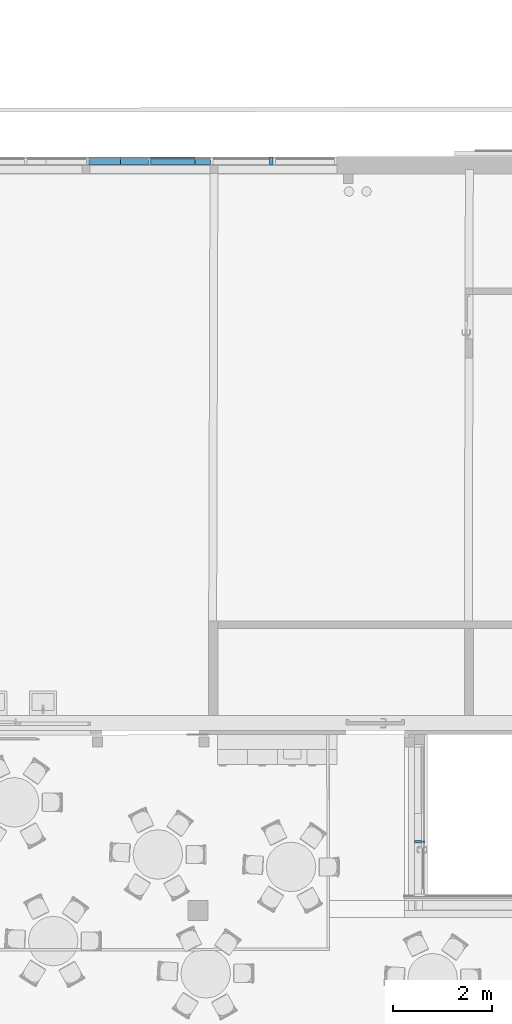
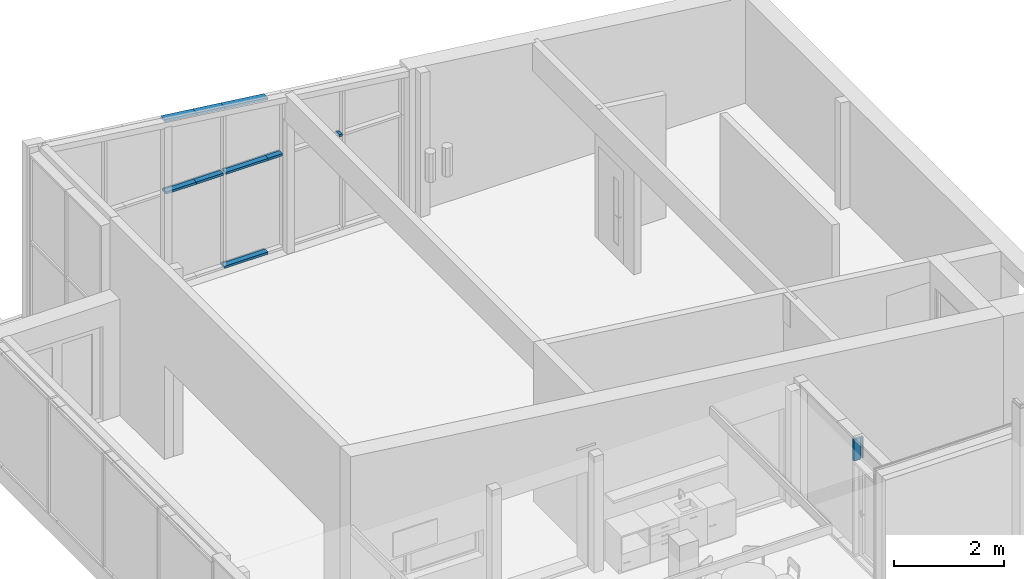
# One storey, part 72 of 301: 10 members, 2 elements without a shape of their own.
"""IFC2X3 building model written with IfcOpenShell, lengths in millimetres."""

from ifc_helpers import new_model, entity, si_unit, converted_unit, derived_unit, money_unit, direction, frame, origin_with_axes, place, context, subcontext, project, spatial, faceted_brep, material, type_object, element, aggregate, save


model = new_model("IFC2X3")

# Units and contexts
model_context = context("Model", 3, precision=0.01, world=origin_with_axes(), true_north=direction((0.0, 1.0)))
body_context = subcontext(model_context, "Body", "Model", "MODEL_VIEW")
ifc_project = project(units=[si_unit("LENGTHUNIT", "METRE", prefix="MILLI"), si_unit("AREAUNIT", "SQUARE_METRE"), si_unit("VOLUMEUNIT", "CUBIC_METRE"), converted_unit("PLANEANGLEUNIT", "DEGREE", entity("IfcPlaneAngleMeasure", 0.0174532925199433), si_unit("PLANEANGLEUNIT", "RADIAN"), dimensions=[0, 0, 0, 0, 0, 0, 0]), money_unit("EUR"), converted_unit("TIMEUNIT", "Year", entity("IfcTimeMeasure", 31557600.0), si_unit("TIMEUNIT", "SECOND"), dimensions=[0, 0, 1, 0, 0, 0, 0]), si_unit("MASSUNIT", "GRAM", prefix="KILO"), si_unit("THERMODYNAMICTEMPERATUREUNIT", "DEGREE_CELSIUS"), si_unit("LUMINOUSINTENSITYUNIT", "LUMEN"), si_unit("ENERGYUNIT", "JOULE", prefix="MEGA"), derived_unit("THERMALCONDUCTANCEUNIT", [(si_unit("POWERUNIT", "WATT"), 1), (si_unit("LENGTHUNIT", "METRE"), -1), (si_unit("THERMODYNAMICTEMPERATUREUNIT", "KELVIN"), -1)]), derived_unit("SPECIFICHEATCAPACITYUNIT", [(si_unit("ENERGYUNIT", "JOULE"), 1), (si_unit("MASSUNIT", "GRAM", prefix="KILO"), -1), (si_unit("THERMODYNAMICTEMPERATUREUNIT", "KELVIN"), -1)]), derived_unit("MASSDENSITYUNIT", [(si_unit("MASSUNIT", "GRAM", prefix="KILO"), 1), (si_unit("VOLUMEUNIT", "CUBIC_METRE"), -1)])], contexts=[model_context])

# Site, building, storey
site_placement = place(None, frame((0.0, 0.0, 8650.0), z_axis=(0.0, 0.0, 1.0), x_axis=(1.0, 0.0, 0.0)))
site = spatial("IfcSite", under=ifc_project, at=site_placement, Name="43301:001:0844", CompositionType="ELEMENT")
building_placement = place(site_placement, origin_with_axes())
building = spatial("IfcBuilding", under=site, at=building_placement, Name="Kuressaare Ametikooli tuulikute mehaanikute õppekorpus", CompositionType="ELEMENT")
storey_placement = place(building_placement, origin_with_axes())
storey = spatial("IfcBuildingStorey", under=building, at=storey_placement, Name="1.korrus", CompositionType="ELEMENT", Elevation=0.0)

# Curtain wall, member
curtain_wall_type = type_object("IfcCurtainWallType", Name="Curtain Wall Type", PredefinedType="NOTDEFINED")
curtain_wall_1_placement = place(storey_placement, frame((130440.0312746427, 29344.34887802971, 34.99990943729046), z_axis=(0.0, 0.0, 1.0), x_axis=(1.0, 0.0, 0.0)))
curtain_wall_1 = element("IfcCurtainWall", 1, at=curtain_wall_1_placement, inside=storey, type_object=curtain_wall_type, Name="KF-2")
ifc_material_1 = material(Name="Aluminium")
member_type_1 = type_object("IfcMemberType", Name="Mullion Frame 50 x 200", PredefinedType="NOTDEFINED")
member_1_placement = place(curtain_wall_1_placement, frame((-0.6444716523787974, 429.7206432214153, 2075.000044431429), z_axis=(0.0, 0.0, 1.0), x_axis=(-0.001499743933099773, 0.9999988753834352, 0.0)))
member_1 = element("IfcMember", 2, at=member_1_placement, type_object=member_type_1, material=ifc_material_1, context=body_context, shape_type="Brep", body=[
    faceted_brep([(-5.000000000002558, 19.99999999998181, 505.0000509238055), (-4.999999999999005, -20.00000000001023, 505.0000509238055), (-24.99999999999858, -20.00000000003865, 505.0000509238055), (-24.99999999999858, -40.00000000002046, 505.0000509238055), (24.99999999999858, -40.00000000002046, 505.0000509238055), (24.99999999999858, -20.00000000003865, 505.0000509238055), (5.000000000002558, -20.00000000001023, 505.0000509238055), (4.999999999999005, 20.00000000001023, 505.0000509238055), (24.99999999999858, 20.00000000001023, 505.0000509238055), (24.99999999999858, 159.9999999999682, 505.0000509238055), (-24.99999999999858, 159.9999999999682, 505.0000509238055), (-25.00000000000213, 20.00000000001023, 505.0000509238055), (-5.000000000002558, 19.99999999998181, 24.99999999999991), (-4.999999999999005, -20.00000000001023, 24.99999999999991), (-24.99999999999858, -20.00000000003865, 24.99999999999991), (-24.99999999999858, -40.00000000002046, 24.99999999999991), (24.99999999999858, -40.00000000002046, 24.99999999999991), (24.99999999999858, -20.00000000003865, 24.99999999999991), (5.000000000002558, -20.00000000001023, 24.99999999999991), (4.999999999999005, 20.00000000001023, 24.99999999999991), (24.99999999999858, 20.00000000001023, 24.99999999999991), (24.99999999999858, 159.9999999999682, 24.99999999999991), (-24.99999999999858, 159.9999999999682, 24.99999999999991), (-25.00000000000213, 20.00000000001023, 24.99999999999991)], [[[0, 1, 2, 3, 4, 5, 6, 7, 8, 9, 10, 11]], [[0, 12, 13, 1]], [[1, 13, 14, 2]], [[14, 15, 3, 2]], [[4, 3, 15, 16]], [[17, 5, 4, 16]], [[5, 17, 18, 6]], [[7, 6, 18, 19]], [[8, 7, 19, 20]], [[8, 20, 21, 9]], [[10, 9, 21, 22]], [[11, 10, 22, 23]], [[11, 23, 12, 0]], [[13, 12, 23, 22, 21, 20, 19, 18, 17, 16, 15, 14]]]),
])
aggregate(curtain_wall_1, [member_1])

# Curtain wall, members
curtain_wall_2_placement = place(storey_placement, frame((123006.726034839, 43517.8284534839, -3.991420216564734e-05), z_axis=(0.0, 0.0, 1.0), x_axis=(1.0, 0.0, 0.0)))
curtain_wall_2 = element("IfcCurtainWall", 3, at=curtain_wall_2_placement, inside=storey, type_object=curtain_wall_type, Name="KF-XX")
ifc_material_2 = material(Name="Metall - Alumiinium")
member_type_2 = type_object("IfcMemberType", Name="Boundary Frame 50 x 150", PredefinedType="NOTDEFINED")
member_2_placement = place(curtain_wall_2_placement, frame((2857.128657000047, 0.0, 0.0), z_axis=(-1.0, 0.0, 0.0), x_axis=(0.0, 0.0, 1.0)))
member_2 = element("IfcMember", 4, at=member_2_placement, type_object=member_type_2, material=ifc_material_2, context=body_context, shape_type="Brep", body=[
    faceted_brep([(35.0, -9.99999999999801, 911.4158399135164), (35.0, 9.99999999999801, 911.4158399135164), (50.0, 9.99999999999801, 911.4158399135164), (50.0, 30.00000000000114, 911.4158399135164), (0.0, 30.00000000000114, 911.4158399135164), (0.0, 0.0, 911.4158399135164), (0.0, -119.9999999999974, 911.4158399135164), (50.0, -119.9999999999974, 911.4158399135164), (50.0, -9.99999999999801, 911.4158399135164), (35.0, -9.99999999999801, 0.0), (35.0, 9.99999999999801, 0.0), (50.0, 9.99999999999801, 0.0), (50.0, 30.00000000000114, 0.0), (0.0, 30.00000000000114, 0.0), (0.0, 0.0, 0.0), (0.0, -119.9999999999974, 0.0), (50.0, -119.9999999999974, 0.0), (50.0, -9.99999999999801, 0.0)], [[[0, 1, 2, 3, 4, 5, 6, 7, 8]], [[1, 0, 9, 10]], [[11, 2, 1, 10]], [[2, 11, 12, 3]], [[13, 4, 3, 12]], [[14, 5, 4, 13]], [[15, 6, 5, 14]], [[16, 7, 6, 15]], [[17, 8, 7, 16]], [[0, 8, 17, 9]], [[9, 17, 16, 15, 14, 13, 12, 11, 10]]]),
])
member_3_placement = place(curtain_wall_2_placement, frame((1357.128657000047, 0.0, 3658.235312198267), z_axis=(0.9924854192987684, 0.0, -0.1223629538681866), x_axis=(-0.1223629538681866, 0.0, -0.9924854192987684)))
member_3 = element("IfcMember", 5, at=member_3_placement, type_object=member_type_2, material=ifc_material_2, context=body_context, shape_type="Brep", body=[
    faceted_brep([(35.00000000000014, -9.99999999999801, 593.0406089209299), (35.00000000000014, 9.99999999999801, 593.0406089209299), (50.00000000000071, 9.99999999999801, 593.0406089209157), (50.00000000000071, 30.00000000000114, 593.0406089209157), (0.0, 30.00000000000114, 593.0406089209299), (0.0, 0.0, 593.0406089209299), (0.0, -119.9999999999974, 593.0406089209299), (50.00000000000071, -119.9999999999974, 593.0406089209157), (50.00000000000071, -9.99999999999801, 593.0406089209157), (35.00000000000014, -9.99999999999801, 0.0), (35.00000000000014, 9.99999999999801, 0.0), (50.00000000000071, 9.99999999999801, 0.0), (50.00000000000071, 30.00000000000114, 0.0), (0.0, 30.00000000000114, 0.0), (0.0, 0.0, 0.0), (0.0, -119.9999999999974, 0.0), (50.00000000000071, -119.9999999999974, 0.0), (50.00000000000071, -9.99999999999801, 0.0)], [[[0, 1, 2, 3, 4, 5, 6, 7, 8]], [[1, 0, 9, 10]], [[11, 2, 1, 10]], [[2, 11, 12, 3]], [[13, 4, 3, 12]], [[14, 5, 4, 13]], [[15, 6, 5, 14]], [[16, 7, 6, 15]], [[17, 8, 7, 16]], [[0, 8, 17, 9]], [[9, 17, 16, 15, 14, 13, 12, 11, 10]]]),
])
member_4_placement = place(curtain_wall_2_placement, frame((695.0473230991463, 0.0, 3739.862937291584), z_axis=(0.9924854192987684, 0.0, -0.1223629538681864), x_axis=(-0.1223629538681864, 0.0, -0.9924854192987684)))
member_4 = element("IfcMember", 6, at=member_4_placement, type_object=member_type_2, material=ifc_material_2, context=body_context, shape_type="Brep", body=[
    faceted_brep([(35.00000000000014, -9.99999999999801, 667.0942676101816), (35.00000000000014, 9.99999999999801, 667.0942676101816), (50.00000000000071, 9.99999999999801, 667.0942676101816), (50.00000000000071, 30.00000000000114, 667.0942676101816), (0.0, 30.00000000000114, 667.0942676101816), (0.0, 0.0, 667.0942676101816), (0.0, -119.9999999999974, 667.0942676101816), (50.00000000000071, -119.9999999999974, 667.0942676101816), (50.00000000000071, -9.99999999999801, 667.0942676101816), (35.00000000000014, -9.99999999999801, 0.0), (35.00000000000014, 9.99999999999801, 0.0), (50.00000000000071, 9.99999999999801, 0.0), (50.00000000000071, 30.00000000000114, 0.0), (0.0, 30.00000000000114, 0.0), (0.0, 0.0, 0.0), (0.0, -119.9999999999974, 0.0), (50.00000000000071, -119.9999999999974, 0.0), (50.00000000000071, -9.99999999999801, 0.0)], [[[0, 1, 2, 3, 4, 5, 6, 7, 8]], [[1, 0, 9, 10]], [[11, 2, 1, 10]], [[2, 11, 12, 3]], [[13, 4, 3, 12]], [[14, 5, 4, 13]], [[15, 6, 5, 14]], [[16, 7, 6, 15]], [[17, 8, 7, 16]], [[0, 8, 17, 9]], [[9, 17, 16, 15, 14, 13, 12, 11, 10]]]),
])
member_5_placement = place(curtain_wall_2_placement, frame((1945.712814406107, 0.0, 3585.669111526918), z_axis=(0.9924854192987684, 0.0, -0.122362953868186), x_axis=(-0.122362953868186, 0.0, -0.9924854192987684)))
member_5 = element("IfcMember", 7, at=member_5_placement, type_object=member_type_2, material=ifc_material_2, context=body_context, shape_type="Brep", body=[
    faceted_brep([(34.99999999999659, -9.99999999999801, 918.3166075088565), (34.99999999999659, 9.99999999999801, 918.3166075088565), (49.99999999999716, 9.99999999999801, 918.3166075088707), (49.99999999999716, 30.00000000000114, 918.3166075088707), (0.0, 30.00000000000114, 918.3166075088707), (0.0, 0.0, 918.3166075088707), (0.0, -119.9999999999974, 918.3166075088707), (49.99999999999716, -119.9999999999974, 918.3166075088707), (49.99999999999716, -9.99999999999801, 918.3166075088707), (34.99999999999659, -9.99999999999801, 0.0), (34.99999999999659, 9.99999999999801, 0.0), (49.99999999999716, 9.99999999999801, 0.0), (49.99999999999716, 30.00000000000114, 0.0), (0.0, 30.00000000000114, 0.0), (0.0, 0.0, 0.0), (0.0, -119.9999999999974, 0.0), (49.99999999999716, -119.9999999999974, 0.0), (49.99999999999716, -9.99999999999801, 0.0)], [[[0, 1, 2, 3, 4, 5, 6, 7, 8]], [[1, 0, 9, 10]], [[11, 2, 1, 10]], [[2, 11, 12, 3]], [[13, 4, 3, 12]], [[14, 5, 4, 13]], [[15, 6, 5, 14]], [[16, 7, 6, 15]], [[17, 8, 7, 16]], [[0, 8, 17, 9]], [[9, 17, 16, 15, 14, 13, 12, 11, 10]]]),
])
member_type_3 = type_object("IfcMemberType", Name="Transom Frame 50 x 150", PredefinedType="NOTDEFINED")
member_6_placement = place(curtain_wall_2_placement, frame((1357.128657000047, 0.0, 2100.000039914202), z_axis=(-1.0, 0.0, 0.0), x_axis=(0.0, 0.0, 1.0)))
member_6 = element("IfcMember", 8, at=member_6_placement, type_object=member_type_3, material=ifc_material_2, context=body_context, shape_type="Brep", body=[
    faceted_brep([(-9.999999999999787, -9.99999999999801, 637.0813384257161), (-24.99999999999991, -9.99999999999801, 637.0813384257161), (-24.99999999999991, -119.9999999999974, 637.0813384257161), (24.99999999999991, -119.9999999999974, 637.0813384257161), (24.99999999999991, -9.99999999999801, 637.0813384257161), (9.999999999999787, -9.99999999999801, 637.0813384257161), (9.999999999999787, 9.99999999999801, 637.0813384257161), (24.99999999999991, 9.99999999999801, 637.0813384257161), (24.99999999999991, 30.00000000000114, 637.0813384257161), (-24.99999999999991, 30.00000000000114, 637.0813384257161), (-24.99999999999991, 9.99999999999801, 637.0813384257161), (-9.999999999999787, 9.99999999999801, 637.0813384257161), (-9.999999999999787, -9.99999999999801, 0.0), (-24.99999999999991, -9.99999999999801, 0.0), (-24.99999999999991, -119.9999999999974, 0.0), (24.99999999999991, -119.9999999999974, 0.0), (24.99999999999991, -9.99999999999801, 0.0), (9.999999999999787, -9.99999999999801, 0.0), (9.999999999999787, 9.99999999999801, 0.0), (24.99999999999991, 9.99999999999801, 0.0), (24.99999999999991, 30.00000000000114, 0.0), (-24.99999999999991, 30.00000000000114, 0.0), (-24.99999999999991, 9.99999999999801, 0.0), (-9.999999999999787, 9.99999999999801, 0.0)], [[[0, 1, 2, 3, 4, 5, 6, 7, 8, 9, 10, 11]], [[1, 0, 12, 13]], [[1, 13, 14, 2]], [[3, 2, 14, 15]], [[4, 3, 15, 16]], [[4, 16, 17, 5]], [[5, 17, 18, 6]], [[7, 6, 18, 19]], [[19, 20, 8, 7]], [[9, 8, 20, 21]], [[22, 10, 9, 21]], [[11, 10, 22, 23]], [[0, 11, 23, 12]], [[23, 22, 21, 20, 19, 18, 17, 16, 15, 14, 13, 12]]]),
])
member_7_placement = place(curtain_wall_2_placement, frame((2857.128657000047, 0.0, 2100.000039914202), z_axis=(-1.0, 0.0, 0.0), x_axis=(0.0, 0.0, 1.0)))
member_7 = element("IfcMember", 9, at=member_7_placement, type_object=member_type_3, material=ifc_material_2, context=body_context, shape_type="Brep", body=[
    faceted_brep([(-9.999999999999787, -9.99999999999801, 886.4158398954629), (-24.99999999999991, -9.99999999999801, 886.4158398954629), (-24.99999999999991, -119.9999999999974, 886.4158396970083), (24.99999999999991, -119.9999999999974, 886.4158396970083), (24.99999999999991, -9.99999999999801, 886.4158398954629), (9.999999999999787, -9.99999999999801, 886.4158398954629), (9.999999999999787, 9.99999999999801, 886.4158399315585), (24.99999999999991, 9.99999999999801, 886.4158399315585), (24.99999999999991, 30.00000000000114, 886.4158399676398), (-24.99999999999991, 30.00000000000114, 886.4158399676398), (-24.99999999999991, 9.99999999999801, 886.4158399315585), (-9.999999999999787, 9.99999999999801, 886.4158399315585), (-9.999999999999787, -9.99999999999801, 0.0), (-24.99999999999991, -9.99999999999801, 0.0), (-24.99999999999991, -119.9999999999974, 0.0), (24.99999999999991, -119.9999999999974, 0.0), (24.99999999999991, -9.99999999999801, 0.0), (9.999999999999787, -9.99999999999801, 0.0), (9.999999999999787, 9.99999999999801, 0.0), (24.99999999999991, 9.99999999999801, 0.0), (24.99999999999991, 30.00000000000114, 0.0), (-24.99999999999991, 30.00000000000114, 0.0), (-24.99999999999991, 9.99999999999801, 0.0), (-9.999999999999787, 9.99999999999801, 0.0)], [[[0, 1, 2, 3, 4, 5, 6, 7, 8, 9, 10, 11]], [[1, 0, 12, 13]], [[1, 13, 14, 2]], [[3, 2, 14, 15]], [[4, 3, 15, 16]], [[4, 16, 17, 5]], [[5, 17, 18, 6]], [[7, 6, 18, 19]], [[19, 20, 8, 7]], [[9, 8, 20, 21]], [[22, 10, 9, 21]], [[11, 10, 22, 23]], [[0, 11, 23, 12]], [[23, 22, 21, 20, 19, 18, 17, 16, 15, 14, 13, 12]]]),
])
member_8_placement = place(curtain_wall_2_placement, frame((4444.567365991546, 0.0, 2100.000039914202), z_axis=(-1.0, 0.0, 0.0), x_axis=(0.0, 0.0, 1.0)))
member_8 = element("IfcMember", 10, at=member_8_placement, type_object=member_type_3, material=ifc_material_2, context=body_context, shape_type="Brep", body=[
    faceted_brep([(-9.999999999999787, -9.99999999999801, 87.43870899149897), (-24.99999999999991, -9.99999999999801, 87.43870899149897), (-24.99999999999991, -119.9999999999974, 87.43870899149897), (24.99999999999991, -119.9999999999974, 87.43870899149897), (24.99999999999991, -9.99999999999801, 87.43870899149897), (9.999999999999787, -9.99999999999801, 87.43870899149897), (9.999999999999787, 9.99999999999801, 87.43870899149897), (24.99999999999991, 9.99999999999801, 87.43870899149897), (24.99999999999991, 30.00000000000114, 87.43870899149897), (-24.99999999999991, 30.00000000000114, 87.43870899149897), (-24.99999999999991, 9.99999999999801, 87.43870899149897), (-9.999999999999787, 9.99999999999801, 87.43870899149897), (-9.999999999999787, -9.99999999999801, 25.00000004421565), (-24.99999999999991, -9.99999999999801, 25.00000004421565), (-24.99999999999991, -119.9999999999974, 25.00000053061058), (24.99999999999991, -119.9999999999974, 25.00000053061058), (24.99999999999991, -9.99999999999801, 25.00000004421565), (9.999999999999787, -9.99999999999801, 25.00000004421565), (9.999999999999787, 9.99999999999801, 24.99999995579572), (24.99999999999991, 9.99999999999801, 24.99999995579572), (24.99999999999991, 30.00000000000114, 24.99999986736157), (-24.99999999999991, 30.00000000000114, 24.99999986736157), (-24.99999999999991, 9.99999999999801, 24.99999995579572), (-9.999999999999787, 9.99999999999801, 24.99999995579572)], [[[0, 1, 2, 3, 4, 5, 6, 7, 8, 9, 10, 11]], [[1, 0, 12, 13]], [[1, 13, 14, 2]], [[2, 14, 15, 3]], [[4, 3, 15, 16]], [[4, 16, 17, 5]], [[5, 17, 18, 6]], [[7, 6, 18, 19]], [[19, 20, 8, 7]], [[8, 20, 21, 9]], [[22, 10, 9, 21]], [[11, 10, 22, 23]], [[0, 11, 23, 12]], [[23, 22, 21, 20, 19, 18, 17, 16, 15, 14, 13, 12]]]),
])
member_9_placement = place(curtain_wall_2_placement, frame((1945.71281708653, 0.0, 2100.000039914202), z_axis=(-1.0, 0.0, 0.0), x_axis=(0.0, 0.0, 1.0)))
member_9 = element("IfcMember", 11, at=member_9_placement, type_object=member_type_3, material=ifc_material_2, context=body_context, shape_type="Brep", body=[
    faceted_brep([(-9.999999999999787, -9.99999999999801, 588.5841600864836), (-24.99999999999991, -9.99999999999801, 588.5841600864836), (-24.99999999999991, -119.9999999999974, 588.5841600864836), (24.99999999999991, -119.9999999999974, 588.5841600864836), (24.99999999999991, -9.99999999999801, 588.5841600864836), (9.999999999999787, -9.99999999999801, 588.5841600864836), (9.999999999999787, 9.99999999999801, 588.5841600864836), (24.99999999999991, 9.99999999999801, 588.5841600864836), (24.99999999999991, 30.00000000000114, 588.5841600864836), (-24.99999999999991, 30.00000000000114, 588.5841600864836), (-24.99999999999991, 9.99999999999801, 588.5841600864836), (-9.999999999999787, 9.99999999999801, 588.5841600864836), (-9.999999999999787, -9.99999999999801, 25.00000000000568), (-24.99999999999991, -9.99999999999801, 25.00000000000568), (-24.99999999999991, -119.9999999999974, 25.00000000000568), (24.99999999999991, -119.9999999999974, 25.00000000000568), (24.99999999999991, -9.99999999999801, 25.00000000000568), (9.999999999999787, -9.99999999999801, 25.00000000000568), (9.999999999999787, 9.99999999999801, 25.00000000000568), (24.99999999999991, 9.99999999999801, 25.00000000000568), (24.99999999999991, 30.00000000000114, 25.00000000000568), (-24.99999999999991, 30.00000000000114, 25.00000000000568), (-24.99999999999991, 9.99999999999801, 25.00000000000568), (-9.999999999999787, 9.99999999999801, 25.00000000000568)], [[[0, 1, 2, 3, 4, 5, 6, 7, 8, 9, 10, 11]], [[1, 0, 12, 13]], [[1, 13, 14, 2]], [[2, 14, 15, 3]], [[4, 3, 15, 16]], [[4, 16, 17, 5]], [[5, 17, 18, 6]], [[7, 6, 18, 19]], [[19, 20, 8, 7]], [[8, 20, 21, 9]], [[22, 10, 9, 21]], [[11, 10, 22, 23]], [[0, 11, 23, 12]], [[23, 22, 21, 20, 19, 18, 17, 16, 15, 14, 13, 12]]]),
])
member_10_placement = place(curtain_wall_2_placement, frame((3189.090760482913, 0.0, 2100.000039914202), z_axis=(-1.0, 0.0, 0.0), x_axis=(0.0, 0.0, 1.0)))
member_10 = element("IfcMember", 12, at=member_10_placement, type_object=member_type_3, material=ifc_material_2, context=body_context, shape_type="Brep", body=[
    faceted_brep([(-9.999999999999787, -9.99999999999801, 331.9621034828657), (-24.99999999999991, -9.99999999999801, 331.9621034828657), (-24.99999999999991, -119.9999999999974, 331.9621034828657), (24.99999999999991, -119.9999999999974, 331.9621034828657), (24.99999999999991, -9.99999999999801, 331.9621034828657), (9.999999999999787, -9.99999999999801, 331.9621034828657), (9.999999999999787, 9.99999999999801, 331.9621034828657), (24.99999999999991, 9.99999999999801, 331.9621034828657), (24.99999999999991, 30.00000000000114, 331.9621034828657), (-24.99999999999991, 30.00000000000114, 331.9621034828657), (-24.99999999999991, 9.99999999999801, 331.9621034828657), (-9.999999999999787, 9.99999999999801, 331.9621034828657), (-9.999999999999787, -9.99999999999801, 25.00000000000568), (-24.99999999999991, -9.99999999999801, 25.00000000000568), (-24.99999999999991, -119.9999999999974, 25.00000000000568), (24.99999999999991, -119.9999999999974, 25.00000000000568), (24.99999999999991, -9.99999999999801, 25.00000000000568), (9.999999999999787, -9.99999999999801, 25.00000000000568), (9.999999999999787, 9.99999999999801, 25.00000000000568), (24.99999999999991, 9.99999999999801, 25.00000000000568), (24.99999999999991, 30.00000000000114, 25.00000000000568), (-24.99999999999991, 30.00000000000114, 25.00000000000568), (-24.99999999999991, 9.99999999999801, 25.00000000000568), (-9.999999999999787, 9.99999999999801, 25.00000000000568)], [[[0, 1, 2, 3, 4, 5, 6, 7, 8, 9, 10, 11]], [[1, 0, 12, 13]], [[1, 13, 14, 2]], [[2, 14, 15, 3]], [[4, 3, 15, 16]], [[4, 16, 17, 5]], [[5, 17, 18, 6]], [[7, 6, 18, 19]], [[19, 20, 8, 7]], [[8, 20, 21, 9]], [[22, 10, 9, 21]], [[11, 10, 22, 23]], [[0, 11, 23, 12]], [[23, 22, 21, 20, 19, 18, 17, 16, 15, 14, 13, 12]]]),
])
aggregate(curtain_wall_2, [member_2, member_6, member_3, member_4, member_7, member_8, member_9, member_5, member_10])

save(model, "model.ifc")
